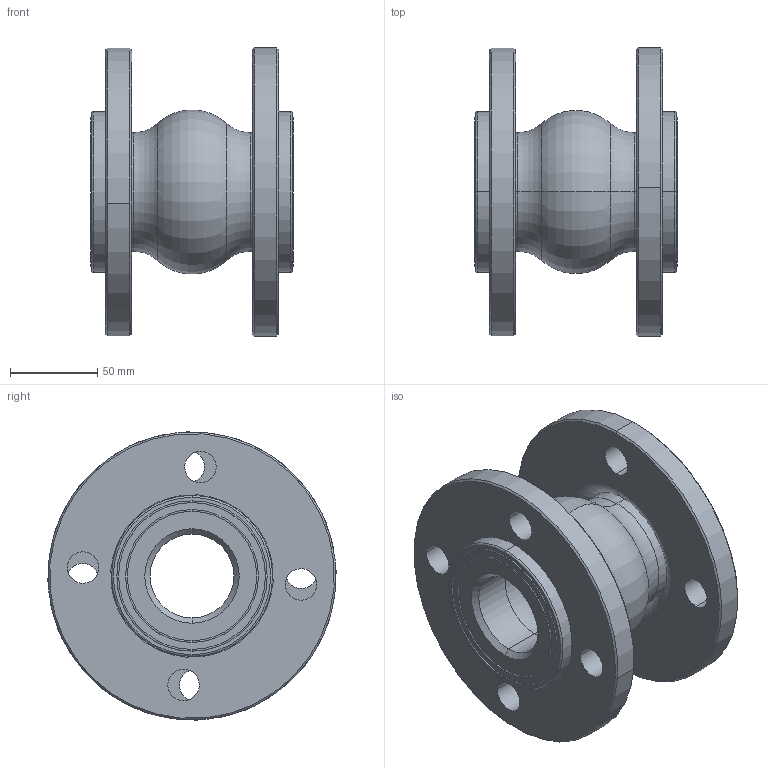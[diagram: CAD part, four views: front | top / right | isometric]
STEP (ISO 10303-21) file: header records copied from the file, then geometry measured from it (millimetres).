
FILE_DESCRIPTION (( 'STEP AP203' ), '1' );
FILE_NAME ('DN50 PN16.STEP', '2026-07-16T06:16:56', ( 'Windows 蚚誧' ), ( '' ), 'SwSTEP 2.0', 'SolidWorks 2018', '' );
FILE_SCHEMA (( 'CONFIG_CONTROL_DESIGN' ));
Length unit declared in the file: millimetre
Products named in the file (3): DN50 PN16; DN50等⑩邧楊擘; DN50
Assembly tree (3 placements, depth 2):
  DN50 PN16
    DN50
    DN50等⑩邧楊擘  x2
Bounding box: 116 x 164.93 x 164.93 mm (x, y, z)
Volume: 789829.9 mm3; surface area: 166568.3 mm2
Topology: 3 solids, 3 shells, 124 faces, 264 edges, 156 vertices
Faces by surface type: cylinder 44, torus 44, cone 20, plane 16
Entity records: 2895 total; most frequent: DIRECTION 550, CARTESIAN_POINT 410, ORIENTED_EDGE 392, AXIS2_PLACEMENT_3D 254, EDGE_CURVE 196, CIRCLE 154, EDGE_LOOP 114, VERTEX_POINT 114
